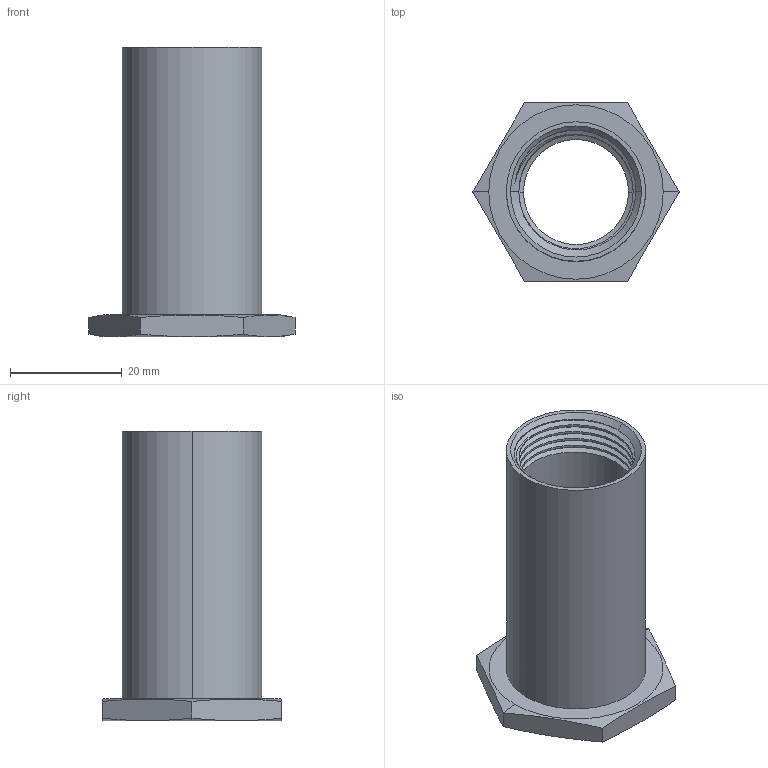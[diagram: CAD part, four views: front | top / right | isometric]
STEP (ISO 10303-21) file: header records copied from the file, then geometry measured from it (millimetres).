
FILE_DESCRIPTION (( 'STEP AP214' ), '1' );
FILE_NAME ('2.TDV2.007.STEP', '2024-07-11T15:03:29', ( '' ), ( '' ), 'SwSTEP 2.0', 'SolidWorks 2021', '' );
FILE_SCHEMA (( 'AUTOMOTIVE_DESIGN' ));
Length unit declared in the file: millimetre
Products named in the file (1): 2.TDV2.007
Bounding box: 36.95 x 32 x 52 mm (x, y, z)
Volume: 9697.8 mm3; surface area: 8933.7 mm2
Topology: 1 solids, 1 shells, 32 faces, 91 edges, 62 vertices
Faces by surface type: cylinder 11, plane 10, cone 8, bspline 3
Entity records: 1904 total; most frequent: CARTESIAN_POINT 1145, ORIENTED_EDGE 182, DIRECTION 116, EDGE_CURVE 91, VERTEX_POINT 62, AXIS2_PLACEMENT_3D 45, EDGE_LOOP 35, ADVANCED_FACE 32
